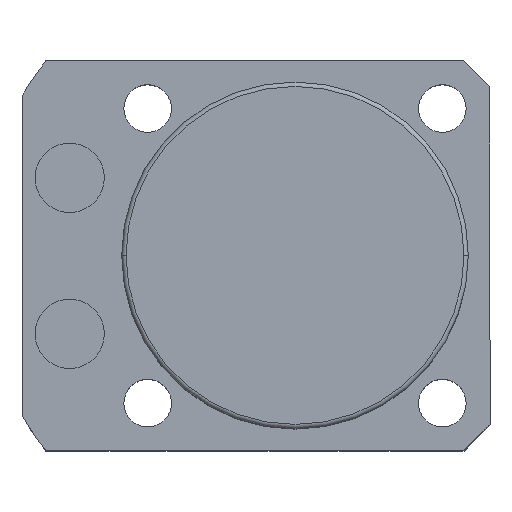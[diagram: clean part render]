
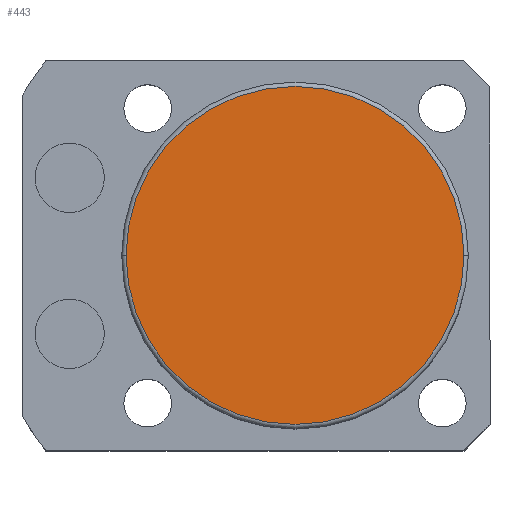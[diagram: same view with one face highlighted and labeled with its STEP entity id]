
A CAD part, top view. The second image highlights one B-rep face of the part: STEP entity #443.
In plain terms, the highlighted planar face has unit normal (0, 0, 1).
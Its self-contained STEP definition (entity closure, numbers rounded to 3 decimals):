
#382 = DIRECTION ( 'NONE',  ( 0., 0., 1. ) ) ;
#443 = ADVANCED_FACE ( 'NONE', ( #5253 ), #4093, .T. ) ;
#464 = VERTEX_POINT ( 'NONE', #4164 ) ;
#532 = ORIENTED_EDGE ( 'NONE', *, *, #3048, .T. ) ;
#651 = CIRCLE ( 'NONE', #3305, 19.5 ) ;
#733 = AXIS2_PLACEMENT_3D ( 'NONE', #2949, #4587, #3705 ) ;
#860 = CIRCLE ( 'NONE', #5080, 19.5 ) ;
#1027 = CARTESIAN_POINT ( 'NONE',  ( 0., 0., 38.5 ) ) ;
#1153 = CARTESIAN_POINT ( 'NONE',  ( 0., 0., 38.5 ) ) ;
#1492 = ORIENTED_EDGE ( 'NONE', *, *, #3866, .T. ) ;
#1863 = DIRECTION ( 'NONE',  ( 1., 0., 0. ) ) ;
#2024 = EDGE_LOOP ( 'NONE', ( #532, #1492 ) ) ;
#2833 = DIRECTION ( 'NONE',  ( 1., 0., 0. ) ) ;
#2949 = CARTESIAN_POINT ( 'NONE',  ( 0., 0., 38.5 ) ) ;
#3048 = EDGE_CURVE ( 'NONE', #3780, #464, #651, .T. ) ;
#3305 = AXIS2_PLACEMENT_3D ( 'NONE', #1027, #4308, #1863 ) ;
#3705 = DIRECTION ( 'NONE',  ( 1., 0., 0. ) ) ;
#3780 = VERTEX_POINT ( 'NONE', #5207 ) ;
#3866 = EDGE_CURVE ( 'NONE', #464, #3780, #860, .T. ) ;
#4093 = PLANE ( 'NONE',  #733 ) ;
#4164 = CARTESIAN_POINT ( 'NONE',  ( -19.5, 0., 38.5 ) ) ;
#4308 = DIRECTION ( 'NONE',  ( 0., 0., 1. ) ) ;
#4587 = DIRECTION ( 'NONE',  ( 0., 0., 1. ) ) ;
#5080 = AXIS2_PLACEMENT_3D ( 'NONE', #1153, #382, #2833 ) ;
#5207 = CARTESIAN_POINT ( 'NONE',  ( 19.5, 0., 38.5 ) ) ;
#5253 = FACE_OUTER_BOUND ( 'NONE', #2024, .T. ) ;
